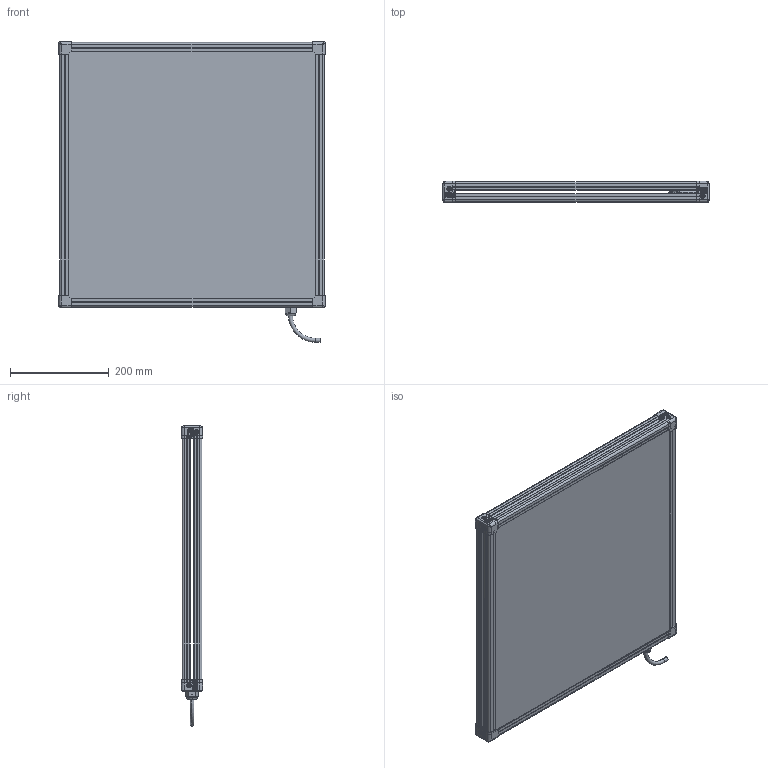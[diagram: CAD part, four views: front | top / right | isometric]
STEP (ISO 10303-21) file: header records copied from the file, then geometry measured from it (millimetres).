
FILE_DESCRIPTION (( 'STEP AP214' ), '1' );
FILE_NAME ('EFFI-BL-500-500-XXX.STEP', '2018-06-11T07:03:52', ( '' ), ( '' ), 'SwSTEP 2.0', 'SolidWorks 2018', '' );
FILE_SCHEMA (( 'AUTOMOTIVE_DESIGN' ));
Length unit declared in the file: millimetre
Products named in the file (1): EFFI-BL-500-500-XXX
Bounding box: 539.5 x 43.2 x 609.05 mm (x, y, z)
Surface area: 748675.1 mm2 (no closed solid volume)
Topology: 0 solids, 39 shells, 600 faces, 4258 edges, 3618 vertices
Faces by surface type: plane 426, cylinder 93, bspline 77, torus 4
Entity records: 55429 total; most frequent: CARTESIAN_POINT 19122, ORIENTED_EDGE 5186, DIRECTION 5141, EDGE_CURVE 4250, VERTEX_POINT 3618, LINE 3395, VECTOR 3395, EDGE_LOOP 939
